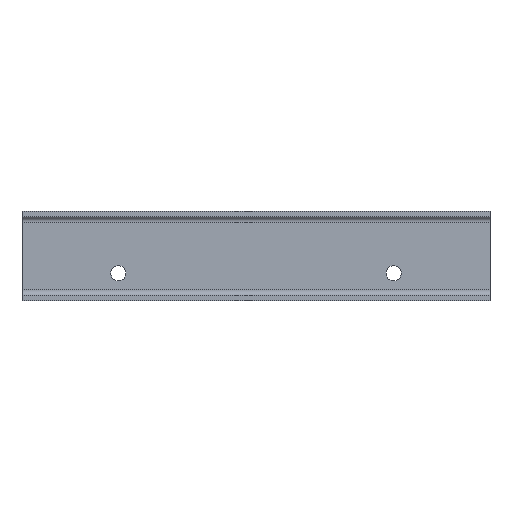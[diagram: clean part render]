
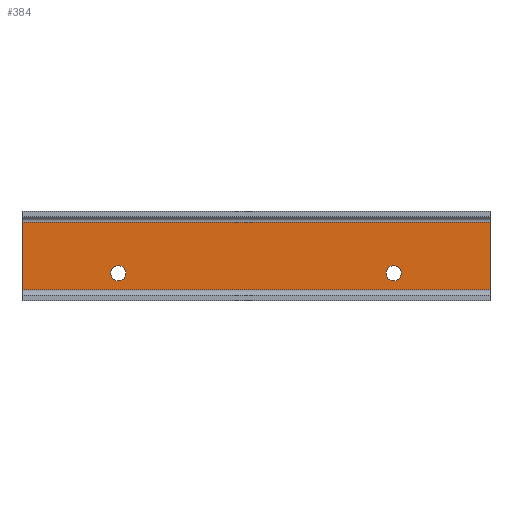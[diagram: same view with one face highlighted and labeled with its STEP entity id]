
A CAD part, top view. The second image highlights one B-rep face of the part: STEP entity #384.
In plain terms, the highlighted planar face has unit normal (0, 0, 1).
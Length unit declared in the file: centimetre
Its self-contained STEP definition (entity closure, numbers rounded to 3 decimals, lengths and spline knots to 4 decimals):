
#17=FACE_BOUND('',#87,.T.);
#18=FACE_BOUND('',#88,.T.);
#36=PLANE('',#434);
#60=FACE_OUTER_BOUND('',#86,.T.);
#86=EDGE_LOOP('',(#349,#350,#351,#352));
#87=EDGE_LOOP('',(#353));
#88=EDGE_LOOP('',(#354));
#106=LINE('',#599,#144);
#122=LINE('',#640,#160);
#124=LINE('',#644,#162);
#126=LINE('',#648,#164);
#144=VECTOR('',#490,1.);
#160=VECTOR('',#532,1.);
#162=VECTOR('',#538,1.);
#164=VECTOR('',#544,1.);
#166=CIRCLE('',#401,0.11);
#168=CIRCLE('',#404,0.11);
#178=VERTEX_POINT('',#551);
#180=VERTEX_POINT('',#557);
#190=VERTEX_POINT('',#585);
#191=VERTEX_POINT('',#589);
#202=VERTEX_POINT('',#626);
#203=VERTEX_POINT('',#630);
#207=EDGE_CURVE('',#178,#178,#166,.T.);
#210=EDGE_CURVE('',#180,#180,#168,.T.);
#230=EDGE_CURVE('',#190,#191,#106,.T.);
#250=EDGE_CURVE('',#202,#203,#122,.T.);
#252=EDGE_CURVE('',#191,#202,#124,.T.);
#254=EDGE_CURVE('',#203,#190,#126,.T.);
#349=ORIENTED_EDGE('',*,*,#230,.T.);
#350=ORIENTED_EDGE('',*,*,#252,.T.);
#351=ORIENTED_EDGE('',*,*,#250,.T.);
#352=ORIENTED_EDGE('',*,*,#254,.T.);
#353=ORIENTED_EDGE('',*,*,#207,.T.);
#354=ORIENTED_EDGE('',*,*,#210,.T.);
#384=ADVANCED_FACE('',(#60,#17,#18),#36,.T.);
#401=AXIS2_PLACEMENT_3D('',#553,#442,#443);
#404=AXIS2_PLACEMENT_3D('',#559,#449,#450);
#434=AXIS2_PLACEMENT_3D('',#649,#545,#546);
#442=DIRECTION('center_axis',(0.,0.,-1.));
#443=DIRECTION('ref_axis',(1.,0.,0.));
#449=DIRECTION('center_axis',(0.,0.,-1.));
#450=DIRECTION('ref_axis',(1.,0.,0.));
#490=DIRECTION('',(-1.,0.,0.));
#532=DIRECTION('',(1.,0.,0.));
#538=DIRECTION('',(0.,-1.,0.));
#544=DIRECTION('',(0.,1.,0.));
#545=DIRECTION('center_axis',(0.,0.,1.));
#546=DIRECTION('ref_axis',(1.,0.,0.));
#551=CARTESIAN_POINT('',(11.09,1.25,0.18));
#553=CARTESIAN_POINT('Origin',(11.2,1.25,0.18));
#557=CARTESIAN_POINT('',(15.09,1.25,0.18));
#559=CARTESIAN_POINT('Origin',(15.2,1.25,0.18));
#585=CARTESIAN_POINT('',(16.6,1.99,0.18));
#589=CARTESIAN_POINT('',(9.8,1.99,0.18));
#599=CARTESIAN_POINT('',(14.9,1.99,0.18));
#626=CARTESIAN_POINT('',(9.8,1.01,0.18));
#630=CARTESIAN_POINT('',(16.6,1.01,0.18));
#640=CARTESIAN_POINT('',(11.5,1.01,0.18));
#644=CARTESIAN_POINT('',(9.8,2.15,0.18));
#648=CARTESIAN_POINT('',(16.6,0.85,0.18));
#649=CARTESIAN_POINT('Origin',(13.2,1.5,0.18));
